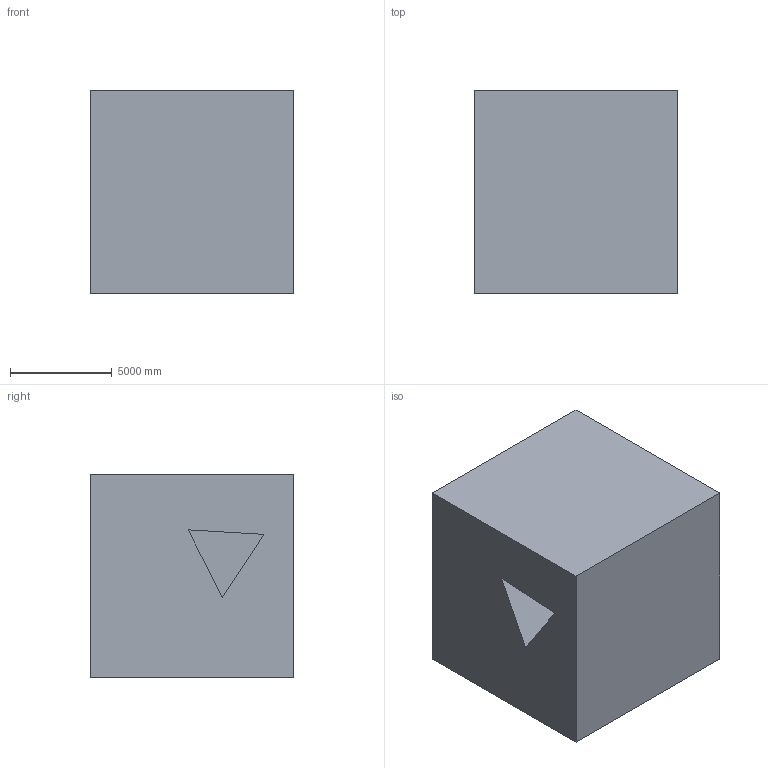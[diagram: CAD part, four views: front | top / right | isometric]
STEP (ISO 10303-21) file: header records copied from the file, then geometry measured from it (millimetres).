
FILE_DESCRIPTION (( 'STEP AP203' ), '1' );
FILE_NAME ('1171.STEP', '2022-08-18T13:02:22', ( 'user' ), ( '' ), 'SwSTEP 2.0', 'SolidWorks 2021', '' );
FILE_SCHEMA (( 'CONFIG_CONTROL_DESIGN' ));
Length unit declared in the file: centimetre
Products named in the file (1): 1171
Bounding box: 10000 x 10000 x 10000 mm (x, y, z)
Volume: 912864102051 mm3; surface area: 750070116.7 mm2
Topology: 1 solids, 1 shells, 15 faces, 33 edges, 22 vertices
Faces by surface type: plane 15
Entity records: 484 total; most frequent: CARTESIAN_POINT 71, ORIENTED_EDGE 66, DIRECTION 65, VECTOR 33, EDGE_CURVE 33, LINE 33, VERTEX_POINT 22, EDGE_LOOP 17
